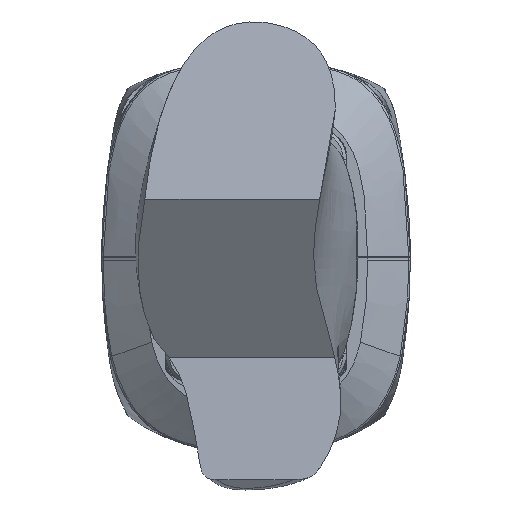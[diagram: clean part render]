
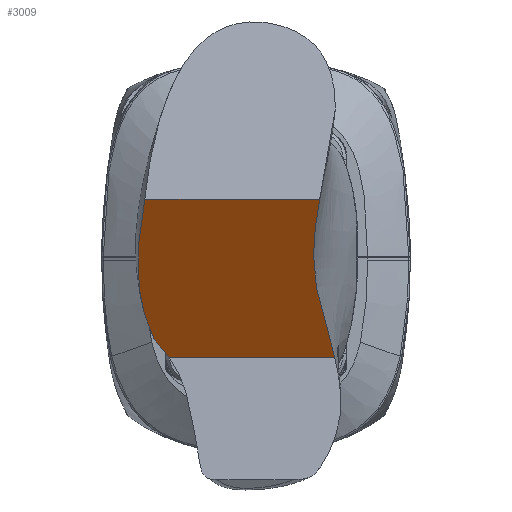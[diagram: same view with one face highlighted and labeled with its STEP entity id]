
A CAD part, left-side view. The second image highlights one B-rep face of the part: STEP entity #3009.
In plain terms, the highlighted planar face has unit normal (-0.826, 0, -0.563) as drawn and (0, 0.826, 0.563) by its records, which use the part's own axes.
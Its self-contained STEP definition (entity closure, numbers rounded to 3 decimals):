
#532 = VERTEX_POINT ( 'NONE', #11839 ) ;
#1478 = EDGE_CURVE ( 'NONE', #48123, #18888, #40044, .T. ) ;
#2185 = CARTESIAN_POINT ( 'NONE',  ( -17.191, 168.596, -8.803 ) ) ;
#2424 = CARTESIAN_POINT ( 'NONE',  ( -18.195, 159.931, 3.902 ) ) ;
#2673 = CARTESIAN_POINT ( 'NONE',  ( -15.989, 154.186, 12.326 ) ) ;
#3009 = ADVANCED_FACE ( 'NONE', ( #9656 ), #37041, .F. ) ;
#3120 = CARTESIAN_POINT ( 'NONE',  ( 9.475, 167.202, -6.759 ) ) ;
#4372 = EDGE_CURVE ( 'NONE', #21936, #36742, #38773, .T. ) ;
#5363 = B_SPLINE_CURVE_WITH_KNOTS ( 'NONE', 3,
 ( #2185, #36585, #10668, #32618, #29618, #13670, #2424, #29369, #48571, #29127, #44564, #40580, #6418, #21654, #2673, #10417 ),
 .UNSPECIFIED., .F., .F.,
 ( 4, 2, 2, 2, 2, 2, 2, 4 ),
 ( 0., 0.007, 0.013, 0.017, 0.02, 0.023, 0.025, 0.026 ),
 .UNSPECIFIED. ) ;
#6193 = CARTESIAN_POINT ( 'NONE',  ( -15.776, 153.897, 12.75 ) ) ;
#6418 = CARTESIAN_POINT ( 'NONE',  ( -16.554, 155.069, 11.032 ) ) ;
#7646 = VERTEX_POINT ( 'NONE', #6193 ) ;
#8037 = ORIENTED_EDGE ( 'NONE', *, *, #1478, .T. ) ;
#8631 = CARTESIAN_POINT ( 'NONE',  ( -14.615, 152.891, 14.226 ) ) ;
#9121 = CARTESIAN_POINT ( 'NONE',  ( -13.51, 151.975, 15.569 ) ) ;
#9656 = FACE_OUTER_BOUND ( 'NONE', #36291, .T. ) ;
#9858 = B_SPLINE_CURVE_WITH_KNOTS ( 'NONE', 3,
 ( #15556, #31005, #30764, #16536 ),
 .UNSPECIFIED., .F., .F.,
 ( 4, 4 ),
 ( 0., 0. ),
 .UNSPECIFIED. ) ;
#10417 = CARTESIAN_POINT ( 'NONE',  ( -15.776, 153.897, 12.75 ) ) ;
#10637 = CARTESIAN_POINT ( 'NONE',  ( -21.524, 168.596, -8.803 ) ) ;
#10668 = CARTESIAN_POINT ( 'NONE',  ( -17.835, 166.135, -5.194 ) ) ;
#10878 = CARTESIAN_POINT ( 'NONE',  ( 9.084, 165.108, -3.689 ) ) ;
#11116 = CARTESIAN_POINT ( 'NONE',  ( 9.046, 160.574, 2.96 ) ) ;
#11125 = DIRECTION ( 'NONE',  ( 1., 0., 0. ) ) ;
#11839 = CARTESIAN_POINT ( 'NONE',  ( -17.191, 168.596, -8.803 ) ) ;
#13670 = CARTESIAN_POINT ( 'NONE',  ( -18.258, 160.557, 2.985 ) ) ;
#14116 = AXIS2_PLACEMENT_3D ( 'NONE', #40302, #40786, #18117 ) ;
#14132 = CARTESIAN_POINT ( 'NONE',  ( 8.897, 162.666, -0.108 ) ) ;
#14609 = CARTESIAN_POINT ( 'NONE',  ( 10.187, 156.747, 8.572 ) ) ;
#14857 = CARTESIAN_POINT ( 'NONE',  ( 9.455, 158.83, 5.518 ) ) ;
#15100 = CARTESIAN_POINT ( 'NONE',  ( 9.256, 159.528, 4.494 ) ) ;
#15556 = CARTESIAN_POINT ( 'NONE',  ( -13.51, 151.975, 15.569 ) ) ;
#16536 = CARTESIAN_POINT ( 'NONE',  ( -13.447, 151.923, 15.645 ) ) ;
#17498 = ORIENTED_EDGE ( 'NONE', *, *, #24421, .T. ) ;
#18068 = B_SPLINE_CURVE_WITH_KNOTS ( 'NONE', 3,
 ( #44700, #21794, #41457, #33482 ),
 .UNSPECIFIED., .F., .F.,
 ( 4, 4 ),
 ( 0., 0.001 ),
 .UNSPECIFIED. ) ;
#18117 = DIRECTION ( 'NONE',  ( 0., 0.563, -0.826 ) ) ;
#18855 = CARTESIAN_POINT ( 'NONE',  ( 8.948, 163.713, -1.643 ) ) ;
#18888 = VERTEX_POINT ( 'NONE', #40429 ) ;
#19170 = CARTESIAN_POINT ( 'NONE',  ( -15.199, 153.336, 13.573 ) ) ;
#21654 = CARTESIAN_POINT ( 'NONE',  ( -16.188, 154.48, 11.896 ) ) ;
#21656 = EDGE_CURVE ( 'NONE', #36742, #48123, #9858, .T. ) ;
#21794 = CARTESIAN_POINT ( 'NONE',  ( -15.628, 153.697, 13.044 ) ) ;
#21862 = CARTESIAN_POINT ( 'NONE',  ( 8.975, 164.062, -2.155 ) ) ;
#21936 = VERTEX_POINT ( 'NONE', #24769 ) ;
#22106 = CARTESIAN_POINT ( 'NONE',  ( 9.841, 168.596, -8.803 ) ) ;
#22346 = CARTESIAN_POINT ( 'NONE',  ( 10.747, 155.367, 10.594 ) ) ;
#23807 = ORIENTED_EDGE ( 'NONE', *, *, #48787, .T. ) ;
#24421 = EDGE_CURVE ( 'NONE', #7646, #21936, #18068, .T. ) ;
#24726 = ORIENTED_EDGE ( 'NONE', *, *, #31667, .F. ) ;
#24769 = CARTESIAN_POINT ( 'NONE',  ( -15.199, 153.336, 13.573 ) ) ;
#25645 = EDGE_CURVE ( 'NONE', #18888, #47209, #42936, .T. ) ;
#26089 = CARTESIAN_POINT ( 'NONE',  ( 11.625, 153.303, 13.621 ) ) ;
#26356 = ORIENTED_EDGE ( 'NONE', *, *, #21656, .T. ) ;
#26537 = VECTOR ( 'NONE', #11125, 1000. ) ;
#27981 = CARTESIAN_POINT ( 'NONE',  ( 9.841, 168.596, -8.803 ) ) ;
#28345 = CARTESIAN_POINT ( 'NONE',  ( -21.524, 151.923, 15.645 ) ) ;
#29127 = CARTESIAN_POINT ( 'NONE',  ( -17.432, 156.862, 8.402 ) ) ;
#29335 = CARTESIAN_POINT ( 'NONE',  ( 9.648, 167.9, -7.783 ) ) ;
#29369 = CARTESIAN_POINT ( 'NONE',  ( -17.983, 158.693, 5.718 ) ) ;
#29426 = CARTESIAN_POINT ( 'NONE',  ( -13.447, 151.923, 15.645 ) ) ;
#29586 = LINE ( 'NONE', #10637, #26537 ) ;
#29618 = CARTESIAN_POINT ( 'NONE',  ( -18.331, 162.424, 0.246 ) ) ;
#29819 = CARTESIAN_POINT ( 'NONE',  ( 8.991, 160.922, 2.449 ) ) ;
#30764 = CARTESIAN_POINT ( 'NONE',  ( -13.468, 151.94, 15.62 ) ) ;
#31005 = CARTESIAN_POINT ( 'NONE',  ( -13.489, 151.957, 15.594 ) ) ;
#31667 = EDGE_CURVE ( 'NONE', #532, #47209, #29586, .T. ) ;
#32575 = DIRECTION ( 'NONE',  ( 1., 0., 0. ) ) ;
#32606 = ORIENTED_EDGE ( 'NONE', *, *, #4372, .T. ) ;
#32618 = CARTESIAN_POINT ( 'NONE',  ( -18.23, 163.664, -1.571 ) ) ;
#33482 = CARTESIAN_POINT ( 'NONE',  ( -15.199, 153.336, 13.573 ) ) ;
#34367 = CARTESIAN_POINT ( 'NONE',  ( -14.061, 152.433, 14.897 ) ) ;
#35816 = CARTESIAN_POINT ( 'NONE',  ( 12.178, 151.923, 15.645 ) ) ;
#36291 = EDGE_LOOP ( 'NONE', ( #26356, #8037, #47669, #24726, #23807, #17498, #32606 ) ) ;
#36585 = CARTESIAN_POINT ( 'NONE',  ( -17.543, 167.366, -7. ) ) ;
#36742 = VERTEX_POINT ( 'NONE', #47702 ) ;
#37041 = PLANE ( 'NONE',  #14116 ) ;
#37042 = CARTESIAN_POINT ( 'NONE',  ( 9.192, 165.806, -4.713 ) ) ;
#37768 = CARTESIAN_POINT ( 'NONE',  ( 8.911, 163.015, -0.62 ) ) ;
#37900 = VECTOR ( 'NONE', #32575, 1000. ) ;
#38773 = B_SPLINE_CURVE_WITH_KNOTS ( 'NONE', 3,
 ( #19170, #8631, #34367, #9121 ),
 .UNSPECIFIED., .F., .F.,
 ( 4, 4 ),
 ( 0., 0.003 ),
 .UNSPECIFIED. ) ;
#40044 = LINE ( 'NONE', #28345, #37900 ) ;
#40302 = CARTESIAN_POINT ( 'NONE',  ( -21.524, 151.923, 15.645 ) ) ;
#40429 = CARTESIAN_POINT ( 'NONE',  ( 12.178, 151.923, 15.645 ) ) ;
#40580 = CARTESIAN_POINT ( 'NONE',  ( -16.721, 155.365, 10.597 ) ) ;
#40786 = DIRECTION ( 'NONE',  ( 0., -0.826, -0.563 ) ) ;
#41278 = CARTESIAN_POINT ( 'NONE',  ( 9.921, 157.438, 7.558 ) ) ;
#41457 = CARTESIAN_POINT ( 'NONE',  ( -15.428, 153.51, 13.317 ) ) ;
#41526 = CARTESIAN_POINT ( 'NONE',  ( 8.916, 161.62, 1.426 ) ) ;
#42936 = B_SPLINE_CURVE_WITH_KNOTS ( 'NONE', 3,
 ( #35816, #47308, #26089, #48771, #22346, #14609, #41278, #14857, #15100, #11116, #29819, #41526, #45018, #14132, #37768, #18855, #21862, #10878, #37042, #3120, #29335, #22106 ),
 .UNSPECIFIED., .F., .F.,
 ( 4, 2, 2, 2, 2, 2, 2, 2, 2, 2, 4 ),
 ( 0., 0.004, 0.008, 0.011, 0.015, 0.017, 0.019, 0.021, 0.023, 0.026, 0.03 ),
 .UNSPECIFIED. ) ;
#44564 = CARTESIAN_POINT ( 'NONE',  ( -17.182, 156.26, 9.286 ) ) ;
#44700 = CARTESIAN_POINT ( 'NONE',  ( -15.776, 153.897, 12.75 ) ) ;
#45018 = CARTESIAN_POINT ( 'NONE',  ( 8.899, 161.969, 0.914 ) ) ;
#47209 = VERTEX_POINT ( 'NONE', #27981 ) ;
#47308 = CARTESIAN_POINT ( 'NONE',  ( 11.915, 152.615, 14.631 ) ) ;
#47669 = ORIENTED_EDGE ( 'NONE', *, *, #25645, .T. ) ;
#47702 = CARTESIAN_POINT ( 'NONE',  ( -13.51, 151.975, 15.569 ) ) ;
#48123 = VERTEX_POINT ( 'NONE', #29426 ) ;
#48571 = CARTESIAN_POINT ( 'NONE',  ( -17.832, 158.079, 6.618 ) ) ;
#48771 = CARTESIAN_POINT ( 'NONE',  ( 11.042, 154.68, 11.603 ) ) ;
#48787 = EDGE_CURVE ( 'NONE', #532, #7646, #5363, .T. ) ;
